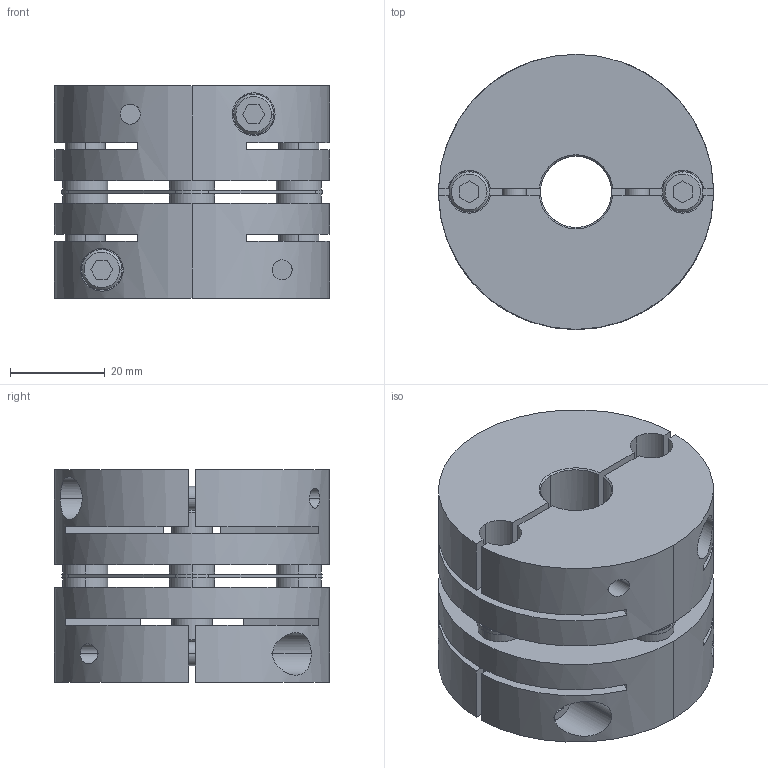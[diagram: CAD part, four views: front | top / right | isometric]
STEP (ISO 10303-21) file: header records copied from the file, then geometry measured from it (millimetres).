
FILE_DESCRIPTION((''),'2;1');
FILE_NAME('LAS-58C-15×24.stp','2011-08-09T15:27:08',(''),(''),'AutoCAD STEP 2000i','AutoCAD 2000i',', , ');
FILE_SCHEMA(('CONFIG_CONTROL_DESIGN'));
Length unit declared in the file: millimetre
Products named in the file (6): LAS-58C-12×19; 忣兜1; LA-5802-D19; LA-5802-D12-1; LA-5802-D12; LAS58-ITA
Assembly tree (5 placements, depth 2):
  LAS-58C-12×19
    忣兜1
    LA-5802-D19
    LA-5802-D12-1
    LA-5802-D12
    LAS58-ITA
Bounding box: 58 x 58 x 44.8 mm (x, y, z)
Volume: 84095.2 mm3; surface area: 32906.5 mm2
Topology: 1 solids, 1 shells, 238 faces, 618 edges, 404 vertices
Faces by surface type: plane 114, cylinder 96, cone 28
Entity records: 8213 total; most frequent: CARTESIAN_POINT 1988, DIRECTION 1316, ORIENTED_EDGE 1240, EDGE_CURVE 620, AXIS2_PLACEMENT_3D 484, VERTEX_POINT 404, VECTOR 348, LINE 348
